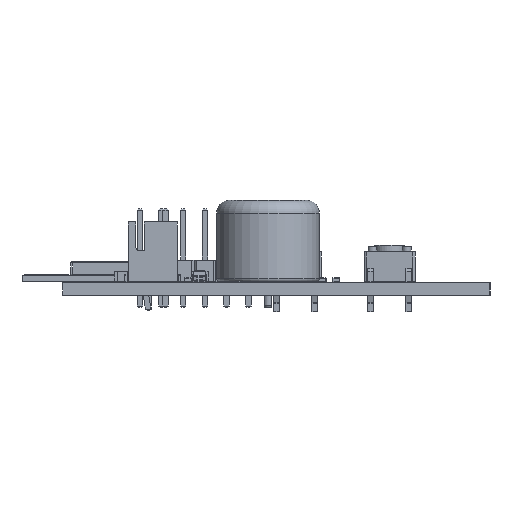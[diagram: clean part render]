
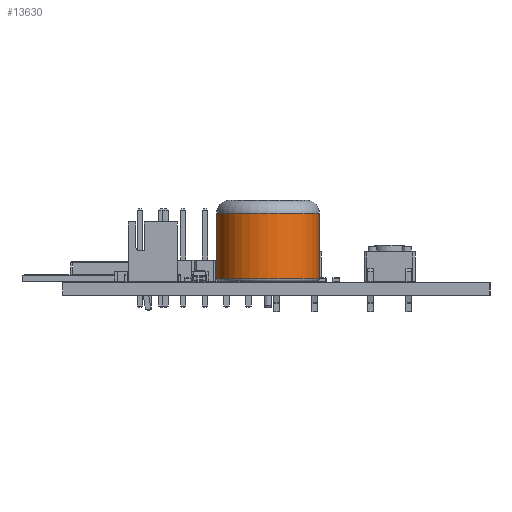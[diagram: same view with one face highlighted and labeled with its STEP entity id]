
A CAD part, left-side view. The second image highlights one B-rep face of the part: STEP entity #13630.
In plain terms, the highlighted cylindrical face has radius 6 mm (diameter 12 mm), a full revolution.
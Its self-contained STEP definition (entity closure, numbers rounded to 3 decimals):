
#13630 = ADVANCED_FACE('',(#13631),#13658,.T.);
#13631 = FACE_BOUND('',#13632,.T.);
#13632 = EDGE_LOOP('',(#13633,#13642,#13650,#13657));
#13633 = ORIENTED_EDGE('',*,*,#13634,.T.);
#13634 = EDGE_CURVE('',#13635,#13635,#13637,.T.);
#13635 = VERTEX_POINT('',#13636);
#13636 = CARTESIAN_POINT('',(9.8,0.,0.33));
#13637 = CIRCLE('',#13638,6.);
#13638 = AXIS2_PLACEMENT_3D('',#13639,#13640,#13641);
#13639 = CARTESIAN_POINT('',(3.8,0.,0.33));
#13640 = DIRECTION('',(0.,0.,1.));
#13641 = DIRECTION('',(1.,0.,0.));
#13642 = ORIENTED_EDGE('',*,*,#13643,.T.);
#13643 = EDGE_CURVE('',#13635,#13644,#13646,.T.);
#13644 = VERTEX_POINT('',#13645);
#13645 = CARTESIAN_POINT('',(9.8,0.,8.049));
#13646 = LINE('',#13647,#13648);
#13647 = CARTESIAN_POINT('',(9.8,0.,0.03));
#13648 = VECTOR('',#13649,1.);
#13649 = DIRECTION('',(0.,0.,1.));
#13650 = ORIENTED_EDGE('',*,*,#13651,.F.);
#13651 = EDGE_CURVE('',#13644,#13644,#13652,.T.);
#13652 = CIRCLE('',#13653,6.);
#13653 = AXIS2_PLACEMENT_3D('',#13654,#13655,#13656);
#13654 = CARTESIAN_POINT('',(3.8,0.,8.049));
#13655 = DIRECTION('',(0.,0.,1.));
#13656 = DIRECTION('',(1.,0.,0.));
#13657 = ORIENTED_EDGE('',*,*,#13643,.F.);
#13658 = CYLINDRICAL_SURFACE('',#13659,6.);
#13659 = AXIS2_PLACEMENT_3D('',#13660,#13661,#13662);
#13660 = CARTESIAN_POINT('',(3.8,0.,0.03));
#13661 = DIRECTION('',(-0.,-0.,-1.));
#13662 = DIRECTION('',(1.,0.,0.));
